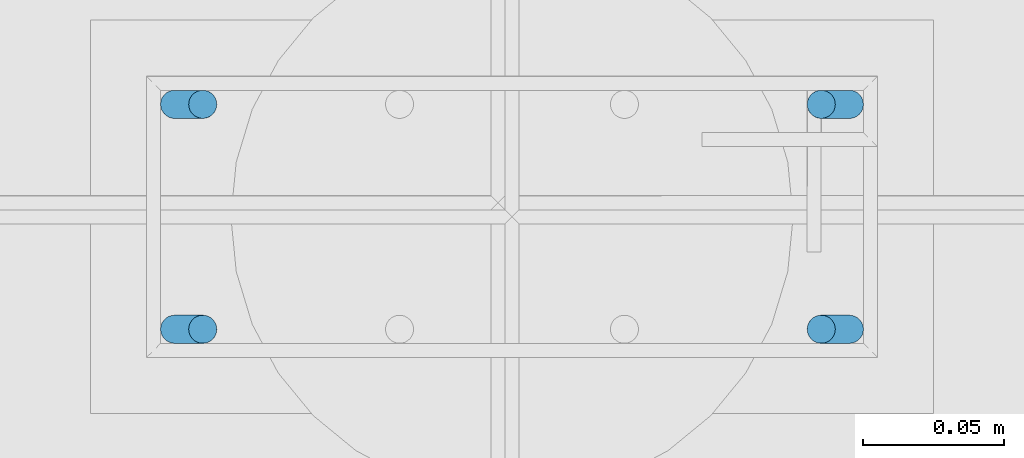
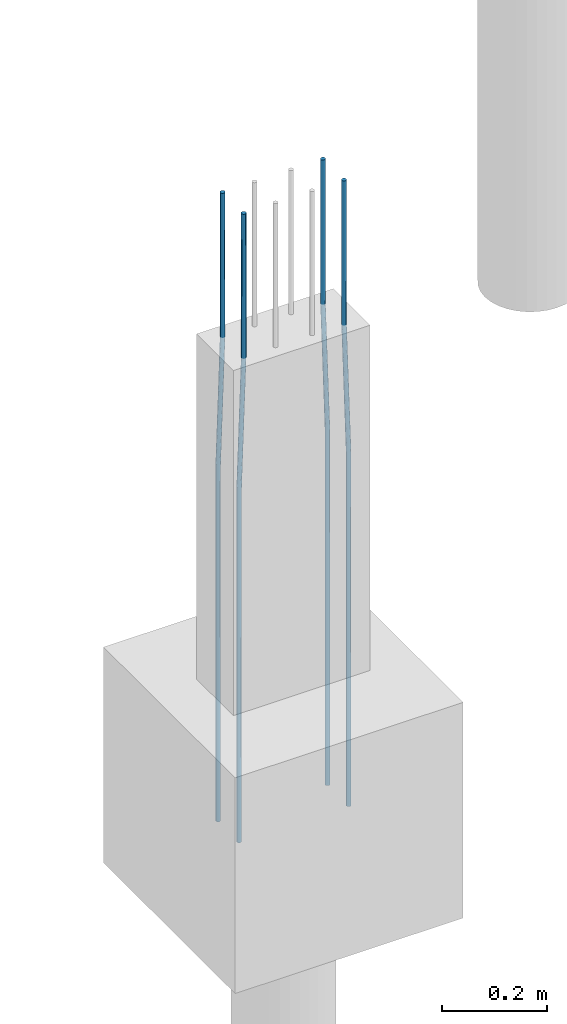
# One storey, part 43 of 119: 4 reinforcing bars.
"""IFC4 building model written with IfcOpenShell, lengths in centimetres."""

from ifc_helpers import new_model, entity, si_unit, derived_unit, frame, origin_with_axes, place, context, project, spatial, element, save


model = new_model("IFC4")

# Units and contexts
model_context = context("Model", 3, precision=1e-05, world=origin_with_axes(), identifier="Body")
ifc_project = project(units=[si_unit("LENGTHUNIT", "METRE", prefix="CENTI"), si_unit("VOLUMEUNIT", "CUBIC_METRE"), si_unit("AREAUNIT", "SQUARE_METRE"), si_unit("POWERUNIT", "WATT"), si_unit("LUMINOUSFLUXUNIT", "LUMEN"), si_unit("ELECTRICCURRENTUNIT", "AMPERE"), si_unit("PRESSUREUNIT", "PASCAL", prefix="KILO"), si_unit("MASSUNIT", "GRAM", prefix="KILO"), si_unit("PLANEANGLEUNIT", "RADIAN"), derived_unit("VOLUMETRICFLOWRATEUNIT", [(si_unit("LENGTHUNIT", "METRE"), 3), (si_unit("TIMEUNIT", "SECOND"), -1)])], contexts=[model_context])

# Site, building, storey
site_placement = place(None, frame((-4000.0, 0.0, 0.0), z_axis=(0.0, 0.0, 1.0), x_axis=(1.0, 0.0, 0.0)))
site = spatial("IfcSite", under=ifc_project, at=site_placement, Name="PADRÃO")
building_placement = place(site_placement, frame((0.0, 0.0, -14.0)))
building = spatial("IfcBuilding", under=site, at=building_placement, Name="CRECHE PRÉ-ESCOLA TIPO 2")
storey_placement = place(building_placement, origin_with_axes())
storey = spatial("IfcBuildingStorey", under=building, at=storey_placement, Name="FUNDAÇÃO", CompositionType="ELEMENT", Elevation=-14.0)

# Reinforcing bars
reinforcing_bar_1_placement = place(storey_placement, frame((3387.5, 2689.02, 33.3573001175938), z_axis=(0.0, 0.0, 1.0), x_axis=(1.0, 0.0, 0.0)))
element("IfcReinforcingBar", 1, at=reinforcing_bar_1_placement, inside=storey, Name="P69 - Longitudinal", BarLength=0.0, CrossSectionArea=7.853981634e-05, NominalDiameter=1.0, PredefinedType="MAIN", context=model_context, shape_type="AdvancedSweptSolid", body=[
    entity("IfcSweptDiskSolid", entity("IfcCompositeCurve", [entity("IfcCompositeCurveSegment", "CONTINUOUS", True, entity("IfcPolyline", [entity("IfcCartesianPoint", [0.5, 0.0, -145.357300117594]), entity("IfcCartesianPoint", [0.5, 0.0, -63.3573001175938])])), entity("IfcCompositeCurveSegment", "CONTINUOUS", True, entity("IfcPolyline", [entity("IfcCartesianPoint", [0.5, 0.0, -63.3573001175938]), entity("IfcCartesianPoint", [-0.5, 0.0, -33.3573001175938])])), entity("IfcCompositeCurveSegment", "CONTINUOUS", True, entity("IfcPolyline", [entity("IfcCartesianPoint", [-0.5, 0.0, -33.3573001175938]), entity("IfcCartesianPoint", [-0.5, 0.0, 0.0])]))], False), 0.5),
])
for number, where, z_axis, x_axis, name in (
    (2, (3364.5, 2689.02, 33.3573001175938), (0.0, 0.0, 1.0), (1.0, 0.0, 0.0), "P69 - Longitudinal"),
    (3, (3364.5, 2681.02, 33.3573001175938), (0.0, 0.0, 1.0), (1.0, 0.0, 0.0), "P69 - Longitudinal"),
):
    element("IfcReinforcingBar", number, at=place(storey_placement, frame(where, z_axis=z_axis, x_axis=x_axis)), inside=storey, Name=name, BarLength=0.0, CrossSectionArea=7.853981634e-05, NominalDiameter=1.0, PredefinedType="MAIN", context=model_context, shape_type="AdvancedSweptSolid", body=[
        entity("IfcSweptDiskSolid", entity("IfcCompositeCurve", [entity("IfcCompositeCurveSegment", "CONTINUOUS", True, entity("IfcPolyline", [entity("IfcCartesianPoint", [-0.5, 0.0, -145.357300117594]), entity("IfcCartesianPoint", [-0.5, 0.0, -63.3573001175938])])), entity("IfcCompositeCurveSegment", "CONTINUOUS", True, entity("IfcPolyline", [entity("IfcCartesianPoint", [-0.5, 0.0, -63.3573001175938]), entity("IfcCartesianPoint", [0.5, 0.0, -33.3573001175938])])), entity("IfcCompositeCurveSegment", "CONTINUOUS", True, entity("IfcPolyline", [entity("IfcCartesianPoint", [0.5, 0.0, -33.3573001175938]), entity("IfcCartesianPoint", [0.5, 0.0, 0.0])]))], False), 0.5),
    ])
reinforcing_bar_2_placement = place(storey_placement, frame((3387.5, 2681.02, 33.3573001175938), z_axis=(0.0, 0.0, 1.0), x_axis=(1.0, 0.0, 0.0)))
element("IfcReinforcingBar", 4, at=reinforcing_bar_2_placement, inside=storey, Name="P69 - Longitudinal", BarLength=0.0, CrossSectionArea=7.853981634e-05, NominalDiameter=1.0, PredefinedType="MAIN", context=model_context, shape_type="AdvancedSweptSolid", body=[
    entity("IfcSweptDiskSolid", entity("IfcCompositeCurve", [entity("IfcCompositeCurveSegment", "CONTINUOUS", True, entity("IfcPolyline", [entity("IfcCartesianPoint", [0.5, 0.0, -145.357300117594]), entity("IfcCartesianPoint", [0.5, 0.0, -63.3573001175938])])), entity("IfcCompositeCurveSegment", "CONTINUOUS", True, entity("IfcPolyline", [entity("IfcCartesianPoint", [0.5, 0.0, -63.3573001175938]), entity("IfcCartesianPoint", [-0.5, 0.0, -33.3573001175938])])), entity("IfcCompositeCurveSegment", "CONTINUOUS", True, entity("IfcPolyline", [entity("IfcCartesianPoint", [-0.5, 0.0, -33.3573001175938]), entity("IfcCartesianPoint", [-0.5, 0.0, 0.0])]))], False), 0.5),
])

save(model, "model.ifc")
